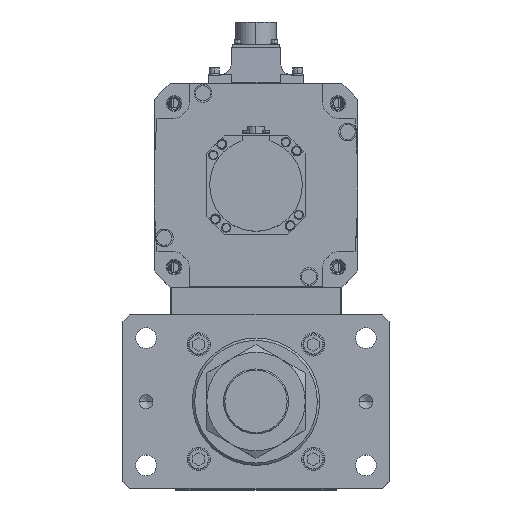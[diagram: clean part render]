
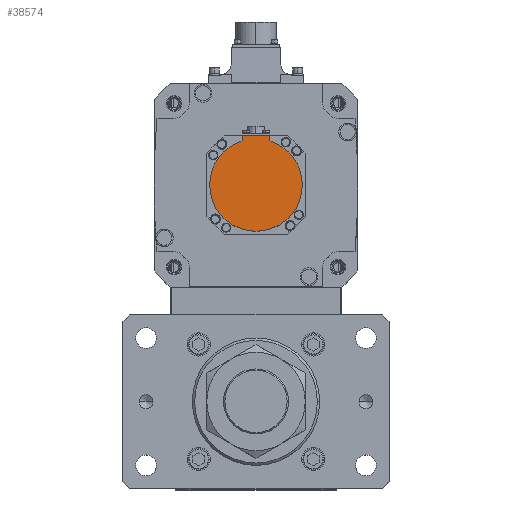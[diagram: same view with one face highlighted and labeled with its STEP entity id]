
A CAD part, top view. The second image highlights one B-rep face of the part: STEP entity #38574.
In plain terms, the highlighted planar face has unit normal (0, 0, 1) as drawn and (0, 0, -1) by its records, which use the part's own axes.
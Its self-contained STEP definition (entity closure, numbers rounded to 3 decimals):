
#268 = DIRECTION ( 'NONE',  ( 0., 1., 0. ) ) ;
#1671 = LINE ( 'NONE', #39585, #30414 ) ;
#3453 = CARTESIAN_POINT ( 'NONE',  ( 12., -1.249, -162.5 ) ) ;
#5364 = DIRECTION ( 'NONE',  ( 1., 0., 0. ) ) ;
#5882 = CARTESIAN_POINT ( 'NONE',  ( 0., -1.249, -162.5 ) ) ;
#5914 = AXIS2_PLACEMENT_3D ( 'NONE', #46603, #26317, #31325 ) ;
#7985 = EDGE_LOOP ( 'NONE', ( #44483, #48885, #38189, #30836, #25907, #34896 ) ) ;
#8325 = LINE ( 'NONE', #28455, #49144 ) ;
#8802 = VERTEX_POINT ( 'NONE', #27366 ) ;
#10556 = CARTESIAN_POINT ( 'NONE',  ( 0., 0., -162.5 ) ) ;
#11317 = VERTEX_POINT ( 'NONE', #44287 ) ;
#13209 = VECTOR ( 'NONE', #35734, 1000. ) ;
#15068 = CIRCLE ( 'NONE', #19456, 40. ) ;
#17550 = EDGE_CURVE ( 'NONE', #39780, #30821, #45693, .T. ) ;
#19456 = AXIS2_PLACEMENT_3D ( 'NONE', #41033, #24477, #32715 ) ;
#20020 = CARTESIAN_POINT ( 'NONE',  ( -12., -42.5, -162.5 ) ) ;
#23531 = VERTEX_POINT ( 'NONE', #20020 ) ;
#24477 = DIRECTION ( 'NONE',  ( 0., 0., 1. ) ) ;
#24759 = AXIS2_PLACEMENT_3D ( 'NONE', #10556, #50706, #34496 ) ;
#25907 = ORIENTED_EDGE ( 'NONE', *, *, #37398, .F. ) ;
#26317 = DIRECTION ( 'NONE',  ( 0., 0., 1. ) ) ;
#27366 = CARTESIAN_POINT ( 'NONE',  ( -12., -38.158, -162.5 ) ) ;
#27467 = EDGE_CURVE ( 'NONE', #11317, #8802, #51805, .T. ) ;
#28455 = CARTESIAN_POINT ( 'NONE',  ( -12., -40.329, -162.5 ) ) ;
#29810 = AXIS2_PLACEMENT_3D ( 'NONE', #5882, #50980, #5364 ) ;
#29981 = PLANE ( 'NONE',  #29810 ) ;
#30414 = VECTOR ( 'NONE', #43130, 1000. ) ;
#30821 = VERTEX_POINT ( 'NONE', #49461 ) ;
#30836 = ORIENTED_EDGE ( 'NONE', *, *, #17550, .F. ) ;
#31325 = DIRECTION ( 'NONE',  ( 1., 0., 0. ) ) ;
#32715 = DIRECTION ( 'NONE',  ( 1., 0., 0. ) ) ;
#34496 = DIRECTION ( 'NONE',  ( 1., 0., 0. ) ) ;
#34584 = VERTEX_POINT ( 'NONE', #43512 ) ;
#34896 = ORIENTED_EDGE ( 'NONE', *, *, #46424, .T. ) ;
#35734 = DIRECTION ( 'NONE',  ( 0., 1., 0. ) ) ;
#37398 = EDGE_CURVE ( 'NONE', #34584, #39780, #52106, .T. ) ;
#38189 = ORIENTED_EDGE ( 'NONE', *, *, #46314, .F. ) ;
#38574 = ADVANCED_FACE ( 'NONE', ( #39901 ), #29981, .F. ) ;
#39585 = CARTESIAN_POINT ( 'NONE',  ( 0., -42.5, -162.5 ) ) ;
#39780 = VERTEX_POINT ( 'NONE', #44795 ) ;
#39901 = FACE_OUTER_BOUND ( 'NONE', #7985, .T. ) ;
#41033 = CARTESIAN_POINT ( 'NONE',  ( 0., 0., -162.5 ) ) ;
#43130 = DIRECTION ( 'NONE',  ( -1., 0., 0. ) ) ;
#43512 = CARTESIAN_POINT ( 'NONE',  ( 12., -42.5, -162.5 ) ) ;
#44287 = CARTESIAN_POINT ( 'NONE',  ( -40., 0., -162.5 ) ) ;
#44483 = ORIENTED_EDGE ( 'NONE', *, *, #51842, .T. ) ;
#44795 = CARTESIAN_POINT ( 'NONE',  ( 12., -38.158, -162.5 ) ) ;
#45693 = CIRCLE ( 'NONE', #5914, 40. ) ;
#46314 = EDGE_CURVE ( 'NONE', #30821, #11317, #15068, .T. ) ;
#46424 = EDGE_CURVE ( 'NONE', #34584, #23531, #1671, .T. ) ;
#46603 = CARTESIAN_POINT ( 'NONE',  ( 0., 0., -162.5 ) ) ;
#48885 = ORIENTED_EDGE ( 'NONE', *, *, #27467, .F. ) ;
#49144 = VECTOR ( 'NONE', #268, 1000. ) ;
#49461 = CARTESIAN_POINT ( 'NONE',  ( 40., 0., -162.5 ) ) ;
#50706 = DIRECTION ( 'NONE',  ( 0., 0., 1. ) ) ;
#50980 = DIRECTION ( 'NONE',  ( 0., 0., 1. ) ) ;
#51805 = CIRCLE ( 'NONE', #24759, 40. ) ;
#51842 = EDGE_CURVE ( 'NONE', #23531, #8802, #8325, .T. ) ;
#52106 = LINE ( 'NONE', #3453, #13209 ) ;
